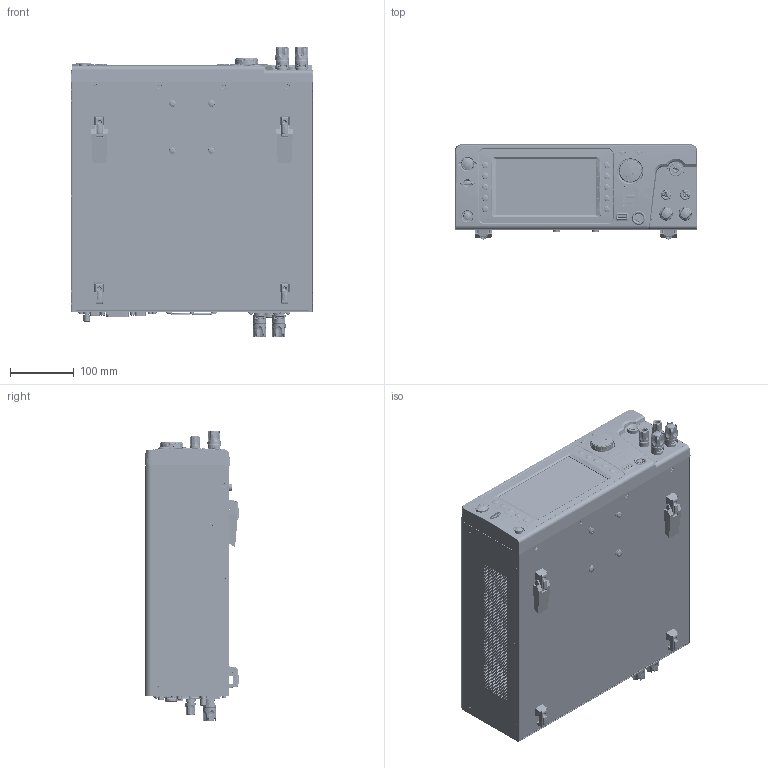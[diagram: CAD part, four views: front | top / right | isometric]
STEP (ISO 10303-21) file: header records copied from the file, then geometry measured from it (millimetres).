
FILE_DESCRIPTION((''),'2;1');
FILE_NAME('GPT-10000-200VA-C_ASM','2020-01-09T09:51:24',('mike_lee'),(''),'CREO PARAMETRIC BY PTC INC, 2019080','CREO PARAMETRIC BY PTC INC, 2019080','');
FILE_SCHEMA(('CONFIG_CONTROL_DESIGN'));
Products named in the file (144): GPT-10000-200VA-C_SKEL0001; GPT10K_F_ASM_SKEL; VTO70E-KN07-I01; 62PT-10KHP501; 57RG-20B05801; 57RG-20B05901; 51PT-10K00101; GPT10K_LCD7_ASM_ASM; GPT10K_F_PCB; REMOTE_SOCKET_YE0506; USB-V; ENCODE_SW-R126EC-D1-25; SS-01GL; LED-RIGHT; BL112-50RU; CTT-1137; 3112-06T10101; GPT10K_F_PCB_ASM_ASM; 63FP-SG102901; INSERT-CU; 63FP-SG102901_ASM; 57RB-40G14301; 57RB-40G14401; 57RB-40G14501; 5005-350G0101; 63TS-OG100201; 44BJ-K0100701; NUT-M6; NEW_HVOUT_PNP_ASM; 5002-180R0101; 5052-240N0101; 5004-130G010; 63LB-BF100701; NEW-45A-TERMINAL_ASM_SKEL0001; 63TS-XG100201; 63TS-XG100201-CU; 63TS-XG100201_ASM; 63TS-XG100301; 63TS-XG100401; 63TS-XG100401-CU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
Assembly tree (302 placements, depth 6):
  GPT-10000-200VA-C_ASM
    GPT-10000-200VA-C_SKEL0001
    GPT10K_F_ASM_ASM
      GPT10K_F_ASM_SKEL
      GPT10K_F_ASM-E_ASM
        GPT10K_F_PCB_ASM_ASM
          GPT10K_LCD7_ASM_ASM
            VTO70E-KN07-I01
            62PT-10KHP501
            57RG-20B05801  x2
            57RG-20B05901  x2
            51PT-10K00101
          GPT10K_F_PCB
          REMOTE_SOCKET_YE0506
          USB-V
          ENCODE_SW-R126EC-D1-25
          SS-01GL  x2
          LED-RIGHT  x5
          BL112-50RU
          CTT-1137  x13
          3112-06T10101  x6
        63FP-SG102901_ASM
          63FP-SG102901
          INSERT-CU  x17
        57RB-40G14301
        57RB-40G14401
        57RB-40G14501
        5005-350G0101
        NEW_HVOUT_PNP_ASM
          63TS-OG100201
          44BJ-K0100701
          NUT-M6  x2
        5002-180R0101
        5052-240N0101
        5004-130G010
        63LB-BF100701  x2
        NEW-45A-TERMINAL_ASM_ASM  x2
          NEW-45A-TERMINAL_ASM_SKEL0001
          63TS-XG100201_ASM
            63TS-XG100201
            63TS-XG100201-CU
          63TS-XG100301
          63TS-XG100401_ASM
            63TS-XG100401
            63TS-XG100401-CU
          63TS-AR100101
          61PF-052140N1-5-14-1T
          6001-CN0050J1
          61PF-052100N1-5-10-1T
          SPRING-WASHER-T1
        GPT10K_TERMINAL_ASM_ASM
          63TS-NB100301_ASM
            GPT10K_TERM_SET_HP
            GPT10K_TERM_SET
          63SC-XF100701
          63TS-XG100101_ASM
            63TS-XG100101
            63TS-XG100101-HP
          63TS-NB100201
          NUT-M6  x2
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Bounding box: 380 x 148.34 x 454 mm (x, y, z)
Volume: 1258191.8 mm3; surface area: 1966663.1 mm2
Topology: 329 solids, 424 shells, 20857 faces, 53553 edges, 34254 vertices
Faces by surface type: plane 10140, cylinder 5655, cone 2254, bspline 1491, torus 656, extrusion 380, sphere 271, revolution 10
Entity records: 567736 total; most frequent: CARTESIAN_POINT 235212, ORIENTED_EDGE 69854, DIRECTION 64930, EDGE_CURVE 35190, VERTEX_POINT 22718, AXIS2_PLACEMENT_3D 22515, VECTOR 19896, LINE 19646
